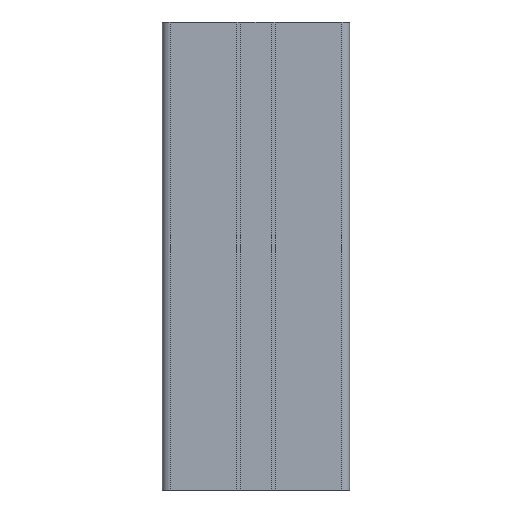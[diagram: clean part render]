
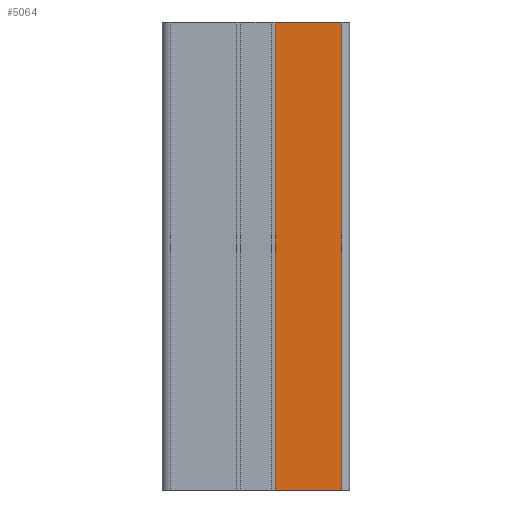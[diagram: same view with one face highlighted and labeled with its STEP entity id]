
A CAD part, left-side view. The second image highlights one B-rep face of the part: STEP entity #5064.
In plain terms, the highlighted planar face has unit normal (-1, 0, 0).
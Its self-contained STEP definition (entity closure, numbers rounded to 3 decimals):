
#4999=CARTESIAN_POINT('',(-30.,-27.5,150.0));
#5000=VERTEX_POINT('',#4999);
#5008=CARTESIAN_POINT('',(-30.,-27.5,0.0));
#5009=VERTEX_POINT('',#5008);
#5010=CARTESIAN_POINT('',(-30.,-27.5,0.0));
#5011=DIRECTION('',(0.0,0.0,1.0));
#5012=VECTOR('',#5011,150.0);
#5013=LINE('',#5010,#5012);
#5014=EDGE_CURVE('',#5009,#5000,#5013,.T.);
#5034=CARTESIAN_POINT('',(-30.,-27.5,0.0));
#5035=DIRECTION('',(-1.0,0.0,0.0));
#5036=DIRECTION('',(0.0,0.0,1.0));
#5037=AXIS2_PLACEMENT_3D('',#5034,#5035,#5036);
#5038=PLANE('',#5037);
#5039=CARTESIAN_POINT('',(-30.,-6.1,150.0));
#5040=VERTEX_POINT('',#5039);
#5041=CARTESIAN_POINT('',(-30.,-27.5,150.0));
#5042=DIRECTION('',(0.0,1.0,0.0));
#5043=VECTOR('',#5042,21.4);
#5044=LINE('',#5041,#5043);
#5045=EDGE_CURVE('',#5000,#5040,#5044,.T.);
#5046=ORIENTED_EDGE('',*,*,#5045,.T.);
#5047=CARTESIAN_POINT('',(-30.,-6.1,0.0));
#5048=VERTEX_POINT('',#5047);
#5049=CARTESIAN_POINT('',(-30.,-6.1,0.0));
#5050=DIRECTION('',(0.0,0.0,1.0));
#5051=VECTOR('',#5050,150.0);
#5052=LINE('',#5049,#5051);
#5053=EDGE_CURVE('',#5048,#5040,#5052,.T.);
#5054=ORIENTED_EDGE('',*,*,#5053,.F.);
#5055=CARTESIAN_POINT('',(-30.,-6.1,0.0));
#5056=DIRECTION('',(0.0,-1.0,0.0));
#5057=VECTOR('',#5056,21.4);
#5058=LINE('',#5055,#5057);
#5059=EDGE_CURVE('',#5048,#5009,#5058,.T.);
#5060=ORIENTED_EDGE('',*,*,#5059,.T.);
#5061=ORIENTED_EDGE('',*,*,#5014,.T.);
#5062=EDGE_LOOP('',(#5046,#5054,#5060,#5061));
#5063=FACE_OUTER_BOUND('',#5062,.T.);
#5064=ADVANCED_FACE('',(#5063),#5038,.T.);
